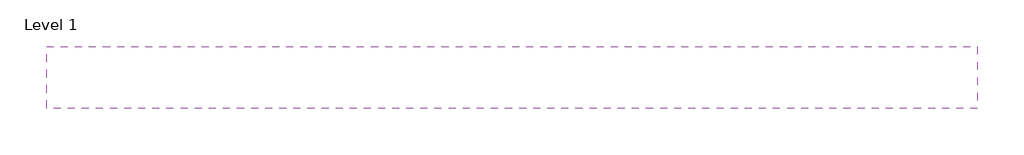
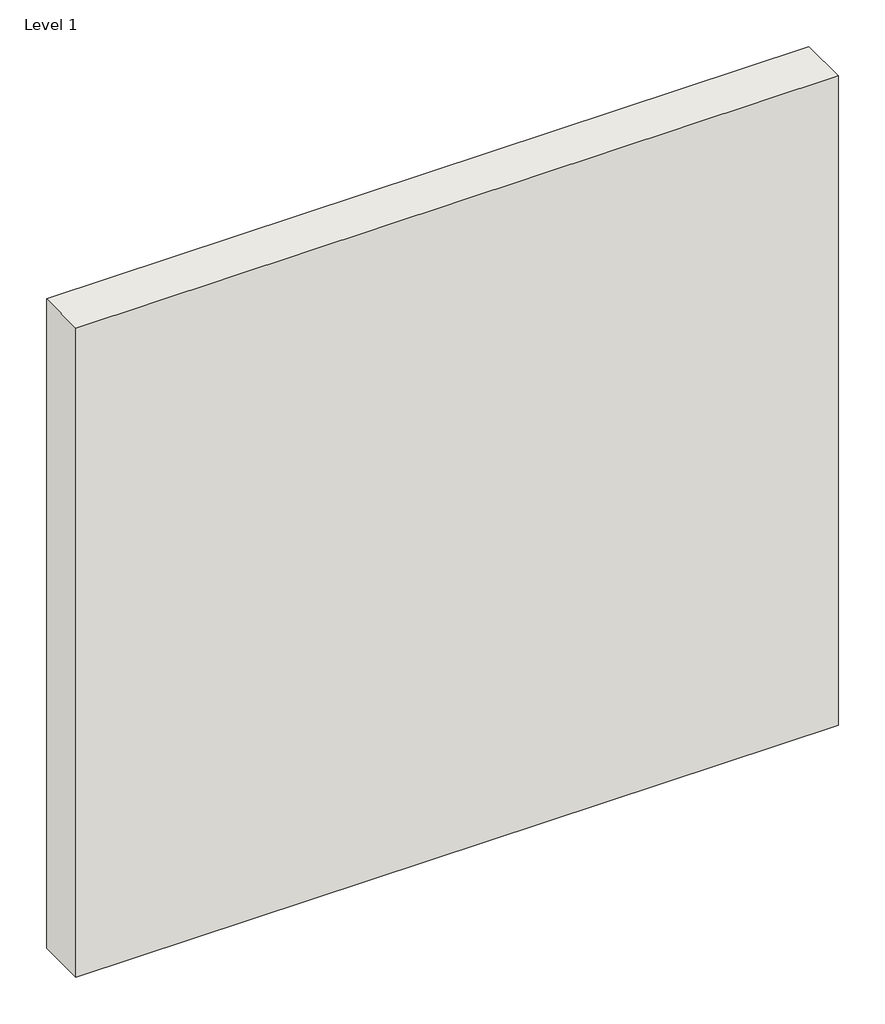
# One storey, incomplete: 1 wall.
"""IFC4 building model written with IfcOpenShell, lengths in millimetres."""

import ifcopenshell
import ifcopenshell.guid

model = None  # the IFC model being written
_history = None  # IfcOwnerHistory: only IFC2X3 demands one
_inside = {}  # id of a spatial element -> (the spatial element, [elements in it])
_under = {}  # id of a project, library or spatial element -> (it, [spatial elements below it])
_declared = {}  # id of a project -> (the project, [libraries it declares])
_typed = {}  # id of a type object -> (the type object, [elements of that type])
_made_of = {}  # id of a material, layer set ... -> (it, [elements and type objects made of it])


def new_model(schema):
    """Start an empty IFC model of exactly this schema.

    Asked for "IFC4X3", IfcOpenShell would pick the latest addendum, in which some entities
    have other attributes; the version numbers below select the first issue.
    IFC2X3 requires an IfcOwnerHistory on every rooted entity: one is made here for all.
    """
    global model, _history
    if schema == "IFC4X3":
        model = ifcopenshell.file(schema_version=(4, 3, 0, 0))
    else:
        model = ifcopenshell.file(schema=schema)
    _inside.clear()
    _under.clear()
    _declared.clear()
    _typed.clear()
    _made_of.clear()
    _history = None
    if model.schema == "IFC2X3":
        org = make("IfcOrganization", Name="unknown")
        user = make(
            "IfcPersonAndOrganization",
            ThePerson=make("IfcPerson", FamilyName="unknown"),
            TheOrganization=org,
        )
        app = make(
            "IfcApplication",
            ApplicationDeveloper=org,
            Version="unknown",
            ApplicationFullName="unknown",
            ApplicationIdentifier="unknown",
        )
        _history = make(
            "IfcOwnerHistory",
            OwningUser=user,
            OwningApplication=app,
            ChangeAction="ADDED",
            CreationDate=0,
        )
    return model


def make(cls, **values):
    """One entity of the class cls with the attributes given. An attribute that is None is left unset."""
    return model.create_entity(
        cls, **{name: value for name, value in values.items() if value is not None}
    )


def rooted(cls, **values):
    """An entity with a GlobalId (a new one), such as an element, a storey or a relation."""
    return make(cls, GlobalId=ifcopenshell.guid.new(), OwnerHistory=_history, **values)


def si_unit(unit_type, name, prefix=None):
    """IfcSIUnit, for example si_unit("LENGTHUNIT", "METRE", prefix="MILLI")."""
    return make("IfcSIUnit", UnitType=unit_type, Prefix=prefix, Name=name)


def assignment(units):
    """IfcUnitAssignment: the units of a project."""
    return None if units is None else make("IfcUnitAssignment", Units=units)


def point(xyz):
    """IfcCartesianPoint."""
    return None if xyz is None else make("IfcCartesianPoint", Coordinates=xyz)


def direction(xyz):
    """IfcDirection."""
    return None if xyz is None else make("IfcDirection", DirectionRatios=xyz)


def frame(location, z_axis=None, x_axis=None):
    """IfcAxis2Placement3D, a coordinate frame: its origin and axes. An axis left out is left unset."""
    return make(
        "IfcAxis2Placement3D",
        Location=point(location),
        Axis=direction(z_axis),
        RefDirection=direction(x_axis),
    )


def origin():
    """The frame at (0, 0, 0) with its axes left unset."""
    return frame((0.0, 0.0, 0.0))


def place(relative_to, where):
    """IfcLocalPlacement: puts the frame where relative to a parent placement (None: the world)."""
    return make(
        "IfcLocalPlacement", PlacementRelTo=relative_to, RelativePlacement=where
    )


def context(
    kind, dimensions, precision=None, world=None, true_north=None, identifier=None
):
    """IfcGeometricRepresentationContext, for example the 3D "Model" context."""
    return make(
        "IfcGeometricRepresentationContext",
        ContextIdentifier=identifier,
        ContextType=kind,
        CoordinateSpaceDimension=dimensions,
        Precision=precision,
        WorldCoordinateSystem=world,
        TrueNorth=true_north,
    )


def project(units=None, contexts=None):
    """IfcProject with its units and contexts."""
    return rooted(
        "IfcProject",
        Name="project",
        RepresentationContexts=contexts,
        UnitsInContext=assignment(units),
    )


def spatial(cls, under=None, at=None, **own):
    """A site, building, storey or space (cls), placed at a placement, below another one or the project."""
    s = rooted(cls, ObjectPlacement=at, **own)
    if under is not None:
        _under.setdefault(under.id(), (under, []))[1].append(s)
    return s


def polyline(points):
    """IfcPolyline through the points."""
    return make("IfcPolyline", Points=[point(p) for p in points])


def outline(outer, holes=None, kind="AREA"):
    """IfcArbitraryClosedProfileDef: a profile drawn as a closed curve; with holes, ...WithVoids."""
    if holes is None:
        return make("IfcArbitraryClosedProfileDef", ProfileType=kind, OuterCurve=outer)
    return make(
        "IfcArbitraryProfileDefWithVoids",
        ProfileType=kind,
        OuterCurve=outer,
        InnerCurves=holes,
    )


def extrude(swept, where, along, depth):
    """IfcExtrudedAreaSolid: the profile swept, set in the frame where, extruded along a direction by depth."""
    return make(
        "IfcExtrudedAreaSolid",
        SweptArea=swept,
        Position=where,
        ExtrudedDirection=direction(along),
        Depth=depth,
    )


def shape(context_of_items, identifier, shape_type, items):
    """IfcShapeRepresentation: the items that make up one representation, for example the "Body"."""
    return make(
        "IfcShapeRepresentation",
        ContextOfItems=context_of_items,
        RepresentationIdentifier=identifier,
        RepresentationType=shape_type,
        Items=items,
    )


def made_of(thing, what):
    """Note that an element or type object is made of a material, layer set ...; save() writes the relation."""
    if what is not None:
        _made_of.setdefault(what.id(), (what, []))[1].append(thing)
    return thing


def element(
    cls,
    number,
    at=None,
    inside=None,
    cuts=None,
    type_object=None,
    material=None,
    context=None,
    identifier="Body",
    shape_type=None,
    held_by="IfcProductDefinitionShape",
    body=None,
    shapes=None,
    **own,
):
    """One element of the class cls, such as IfcWall. Its Tag is "e" and its number.

    at: its placement. inside: the storey or other place that contains it. cuts: it is an
    opening in that element (IfcRelVoidsElement). A single representation is given by context,
    identifier, shape_type and body (its items); several are given by shapes. held_by: the class
    of the entity that holds the representations. save() writes the other relations.
    """
    e = rooted(cls, Tag="e%d" % number, ObjectPlacement=at, **own)
    if body is not None:
        shapes = [shape(context, identifier, shape_type, body)]
    if shapes is not None:
        e.Representation = make(held_by, Representations=shapes)
    if inside is not None:
        _inside.setdefault(inside.id(), (inside, []))[1].append(e)
    if cuts is not None:
        rooted(
            "IfcRelVoidsElement", RelatingBuildingElement=cuts, RelatedOpeningElement=e
        )
    if type_object is not None:
        _typed.setdefault(type_object.id(), (type_object, []))[1].append(e)
    return made_of(e, material)


def aggregate(whole, parts):
    """IfcRelAggregates: a whole, such as a stair, and the parts it consists of."""
    return rooted("IfcRelAggregates", RelatingObject=whole, RelatedObjects=parts)


def save(model, path):
    """Write the relations noted so far, then the file.

    IfcRelAggregates (storeys below a building ...), IfcRelContainedInSpatialStructure (elements
    in a storey), IfcRelDefinesByType, IfcRelAssociatesMaterial and IfcRelDeclares: one each for
    every whole, place, type object, material and project.
    """
    for whole, parts in _under.values():
        aggregate(whole, parts)
    for where, things in _inside.values():
        rooted(
            "IfcRelContainedInSpatialStructure",
            RelatedElements=things,
            RelatingStructure=where,
        )
    for kind, things in _typed.values():
        rooted("IfcRelDefinesByType", RelatedObjects=things, RelatingType=kind)
    for what, things in _made_of.values():
        rooted("IfcRelAssociatesMaterial", RelatedObjects=things, RelatingMaterial=what)
    for by, libraries in _declared.values():
        rooted("IfcRelDeclares", RelatingContext=by, RelatedDefinitions=libraries)
    model.write(path)


model = new_model("IFC4")

# Units and contexts
model_context = context("Model", 3, world=origin())
ifc_project = project(units=[si_unit("LENGTHUNIT", "METRE", prefix="MILLI")], contexts=[model_context])

# Site, building, storey
site = spatial("IfcSite", under=ifc_project)
building = spatial("IfcBuilding", under=site)
storey = spatial("IfcBuildingStorey", under=building, Name="Level 1", Elevation=0.0)

# Wall
placement = place(None, origin())
element("IfcWall", 1, ObjectType="Exterior - 6\" Generic", at=placement, inside=storey, context=model_context, shape_type="SweptSolid", body=[
    extrude(outline(polyline([(4119.1973575, 1963.1766815), (1833.1973575, 1963.1766815), (1833.1973575, 2115.5766815), (4119.1973575, 2115.5766815), (4119.1973575, 1963.1766815)])), frame((0.0, 0.0, 1207.2429788), z_axis=(0.0, 0.0, 1.0), x_axis=(1.0, 0.0, 0.0)), (0.0, 0.0, 1.0), 2058.6988514),
])

save(model, "model.ifc")
